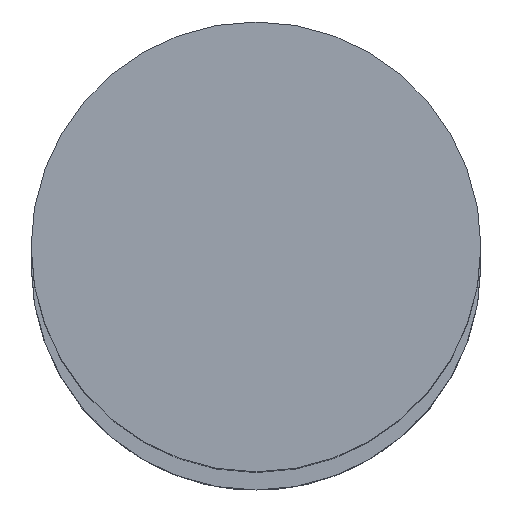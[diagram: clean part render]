
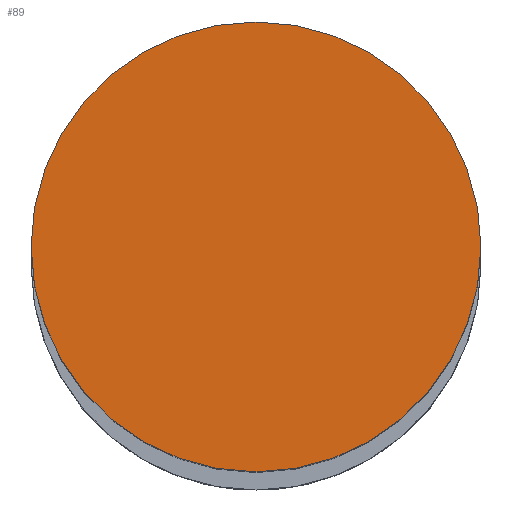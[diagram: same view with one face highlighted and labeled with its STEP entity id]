
A CAD part, top view. The second image highlights one B-rep face of the part: STEP entity #89.
In plain terms, the highlighted planar face has unit normal (0, 0, 1).
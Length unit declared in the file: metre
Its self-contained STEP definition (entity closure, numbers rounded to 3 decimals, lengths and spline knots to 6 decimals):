
#89=ADVANCED_FACE('0:129',(#177),#178,.T.);
#177=FACE_OUTER_BOUND('',#269,.T.);
#178=PLANE('',#270);
#269=EDGE_LOOP('',(#430,#431));
#270=AXIS2_PLACEMENT_3D('',#432,#433,#434);
#430=ORIENTED_EDGE('',*,*,#503,.F.);
#431=ORIENTED_EDGE('',*,*,#549,.F.);
#432=CARTESIAN_POINT('',(0.,0.,0.299));
#433=DIRECTION('',(0.0,0.0,1.0));
#434=DIRECTION('',(1.0,0.0,0.0));
#503=EDGE_CURVE('13:581',#587,#583,#589,.F.);
#549=EDGE_CURVE('',#583,#587,#656,.F.);
#583=VERTEX_POINT('',#707);
#587=VERTEX_POINT('',#712);
#589=CIRCLE('',#715,0.008);
#656=CIRCLE('',#796,0.008);
#707=CARTESIAN_POINT('',(0.00789,0.000133,0.299));
#712=CARTESIAN_POINT('',(-0.00811,0.000133,0.299));
#715=AXIS2_PLACEMENT_3D('',#856,#857,#858);
#796=AXIS2_PLACEMENT_3D('',#924,#925,#926);
#856=CARTESIAN_POINT('',(-0.00011,0.000133,0.299));
#857=DIRECTION('',(0.0,0.0,1.0));
#858=DIRECTION('',(1.0,0.0,0.0));
#924=CARTESIAN_POINT('',(-0.00011,0.000133,0.299));
#925=DIRECTION('',(0.0,0.0,1.0));
#926=DIRECTION('',(1.0,0.0,0.0));
